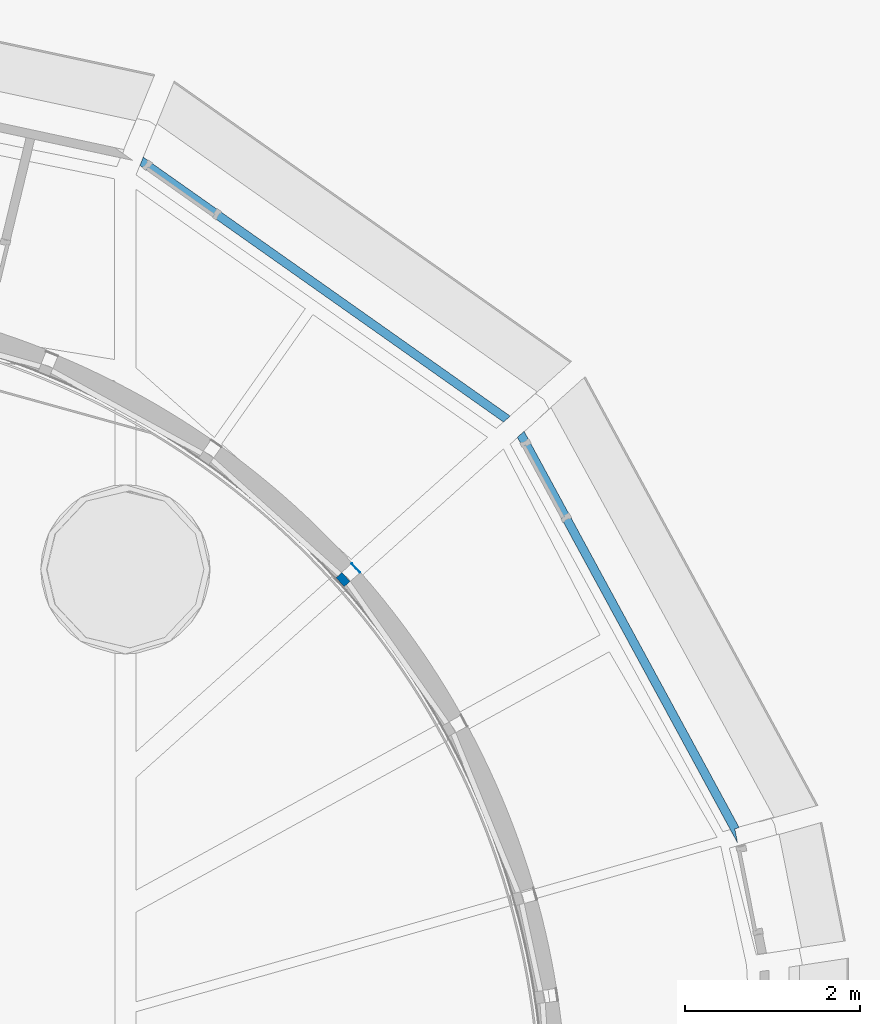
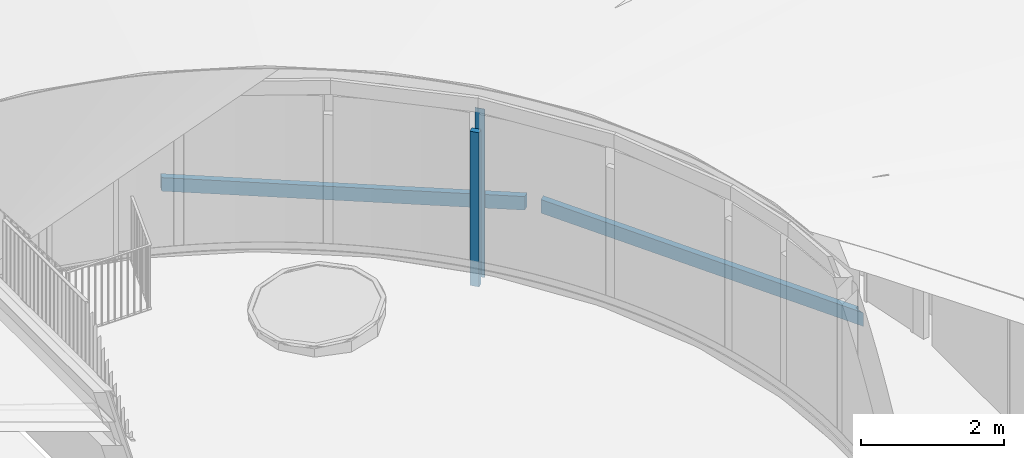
# One storey, part 35 of 66: 4 walls.
"""IFC2X3 building model written with IfcOpenShell, lengths in millimetres."""

from ifc_helpers import new_model, entity, si_unit, converted_unit, derived_unit, direction, frame, frame_2d, origin, place, context, subcontext, project, spatial, polyline, rectangle, outline, extrude, material, layer, layer_set, layer_usage, type_object, element, save


model = new_model("IFC2X3")

# Units and contexts
model_context = context("Model", 3, precision=0.01, world=origin(), true_north=direction((6.12303176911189e-17, 1.0)))
body_context = subcontext(model_context, "Body", "Model", "MODEL_VIEW")
ifc_project = project(units=[si_unit("LENGTHUNIT", "METRE", prefix="MILLI"), si_unit("AREAUNIT", "SQUARE_METRE"), si_unit("VOLUMEUNIT", "CUBIC_METRE"), converted_unit("PLANEANGLEUNIT", "DEGREE", entity("IfcRatioMeasure", 0.0174532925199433), si_unit("PLANEANGLEUNIT", "RADIAN"), dimensions=[0, 0, 0, 0, 0, 0, 0]), si_unit("MASSUNIT", "GRAM", prefix="KILO"), derived_unit("MASSDENSITYUNIT", [(si_unit("MASSUNIT", "GRAM", prefix="KILO"), 1), (si_unit("LENGTHUNIT", "METRE"), -3)]), derived_unit("MOMENTOFINERTIAUNIT", [(si_unit("LENGTHUNIT", "METRE"), 4)]), si_unit("TIMEUNIT", "SECOND"), si_unit("FREQUENCYUNIT", "HERTZ"), si_unit("THERMODYNAMICTEMPERATUREUNIT", "DEGREE_CELSIUS"), derived_unit("THERMALTRANSMITTANCEUNIT", [(si_unit("MASSUNIT", "GRAM", prefix="KILO"), 1), (si_unit("THERMODYNAMICTEMPERATUREUNIT", "KELVIN"), -1), (si_unit("TIMEUNIT", "SECOND"), -3)]), derived_unit("VOLUMETRICFLOWRATEUNIT", [(si_unit("LENGTHUNIT", "METRE"), 3), (si_unit("TIMEUNIT", "SECOND"), -1)]), si_unit("ELECTRICCURRENTUNIT", "AMPERE"), si_unit("ELECTRICVOLTAGEUNIT", "VOLT"), si_unit("POWERUNIT", "WATT"), si_unit("FORCEUNIT", "NEWTON", prefix="KILO"), si_unit("ILLUMINANCEUNIT", "LUX"), si_unit("LUMINOUSFLUXUNIT", "LUMEN"), si_unit("LUMINOUSINTENSITYUNIT", "CANDELA"), derived_unit("USERDEFINED", [(si_unit("MASSUNIT", "GRAM", prefix="KILO"), -1), (si_unit("LENGTHUNIT", "METRE"), -2), (si_unit("TIMEUNIT", "SECOND"), 3), (si_unit("LUMINOUSFLUXUNIT", "LUMEN"), 1)]), derived_unit("LINEARVELOCITYUNIT", [(si_unit("LENGTHUNIT", "METRE"), 1), (si_unit("TIMEUNIT", "SECOND"), -1)]), si_unit("PRESSUREUNIT", "PASCAL"), derived_unit("USERDEFINED", [(si_unit("LENGTHUNIT", "METRE"), -2), (si_unit("MASSUNIT", "GRAM", prefix="KILO"), 1), (si_unit("TIMEUNIT", "SECOND"), -2)]), derived_unit("LINEARFORCEUNIT", [(si_unit("MASSUNIT", "GRAM", prefix="KILO"), 1), (si_unit("LENGTHUNIT", "METRE"), 1), (si_unit("TIMEUNIT", "SECOND"), -2), (si_unit("LENGTHUNIT", "METRE"), -1)]), derived_unit("PLANARFORCEUNIT", [(si_unit("MASSUNIT", "GRAM", prefix="KILO"), 1), (si_unit("LENGTHUNIT", "METRE"), 1), (si_unit("TIMEUNIT", "SECOND"), -2), (si_unit("LENGTHUNIT", "METRE"), -2)])], contexts=[model_context])

# Site, building, storey
site_placement = place(None, origin())
site = spatial("IfcSite", under=ifc_project, at=site_placement, Name="Default", CompositionType="ELEMENT")
building_placement = place(site_placement, origin())
building = spatial("IfcBuilding", under=site, at=building_placement, Name="-", CompositionType="ELEMENT")
storey_placement = place(building_placement, frame((0.0, 0.0, 3070.0)))
storey = spatial("IfcBuildingStorey", under=building, at=storey_placement, Name="01 eerste verdieping", CompositionType="ELEMENT", Elevation=3070.00000000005)

# Walls
ifc_material_1 = material(Name="NLRS_f7_gipsplaat_gen")
ifc_layer_1 = layer(ifc_material_1, 12.5)
ifc_material_2 = material(Name="NLRS_m1_isolatie")
ifc_layer_2 = layer(ifc_material_2, 75.0)
ifc_layer_3 = layer(ifc_material_1, 12.5)
ifc_layer_set_1 = layer_set([ifc_layer_1, ifc_layer_2, ifc_layer_3], Name="Basic Wall:NLRS_21_WA_Metalstud 100mm")
ifc_layer_usage_1 = layer_usage(ifc_layer_set_1, "AXIS2", "NEGATIVE", 50.0)
wall_type_1 = type_object("IfcWallType", Name="Basic Wall:NLRS_21_WA_Metalstud 100mm", PredefinedType="STANDARD", material=ifc_layer_set_1)
wall_1_placement = place(storey_placement, frame((62098.1086853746, 22797.3850498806, -370.0), z_axis=(0.0, 0.0, 1.0), x_axis=(-0.477071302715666, 0.878864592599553, 0.0)))
element("IfcWallStandardCase", 1, at=wall_1_placement, inside=storey, type_object=wall_type_1, material=ifc_layer_usage_1, Name="Basic Wall:NLRS_21_WA_Metalstud 100mm", ObjectType="Basic Wall:NLRS_21_WA_Metalstud 100mm", context=body_context, shape_type="SweptSolid", body=[
    extrude(outline(polyline([(5300.1170399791, -50.0), (5276.44444404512, 50.0), (0.0, 50.0), (155.891530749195, 0.78353206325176), (144.463944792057, -50.0), (5300.1170399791, -50.0)])), origin(), (0.0, 0.0, 1.0), 231.000000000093),
])
ifc_layer_usage_2 = layer_usage(ifc_layer_set_1, "AXIS2", "NEGATIVE", 50.0)
wall_2_placement = place(storey_placement, frame((55230.0712141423, 30573.319409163, -370.0), z_axis=(0.0, 0.0, 1.0), x_axis=(0.817056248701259, -0.57655796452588, 0.0)))
element("IfcWallStandardCase", 2, at=wall_2_placement, inside=storey, type_object=wall_type_1, material=ifc_layer_usage_2, Name="Basic Wall:NLRS_21_WA_Metalstud 100mm", ObjectType="Basic Wall:NLRS_21_WA_Metalstud 100mm", context=body_context, shape_type="SweptSolid", body=[
    extrude(outline(polyline([(5112.85744896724, -50.0), (5135.90504335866, 50.0), (0.0, 50.0), (23.1260505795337, -50.0), (5112.85744896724, -50.0)])), origin(), (0.0, 0.0, 1.0), 231.000000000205),
])
ifc_material_3 = material(Name="NLRS_n7_isolatie PIR_gen")
ifc_layer_4 = layer(ifc_material_3, 90.0)
ifc_layer_set_2 = layer_set([ifc_layer_4], Name="Basic Wall:NLRS_22_WA_LB_isolatie PIR 90mm")
ifc_layer_usage_3 = layer_usage(ifc_layer_set_2, "AXIS2", "NEGATIVE", 45.0)
wall_type_2 = type_object("IfcWallType", Name="Basic Wall:NLRS_22_WA_LB_isolatie PIR 90mm", PredefinedType="STANDARD", material=ifc_layer_set_2)
wall_3_placement = place(storey_placement, frame((57589.32378013, 25732.744983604, 100.0), z_axis=(0.0, 0.0, 1.0), x_axis=(-0.666695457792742, 0.745330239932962, 0.0)))
element("IfcWallStandardCase", 3, at=wall_3_placement, inside=storey, type_object=wall_type_2, material=ifc_layer_usage_3, Name="Basic Wall:NLRS_22_WA_LB_isolatie PIR 90mm", ObjectType="Basic Wall:NLRS_22_WA_LB_isolatie PIR 90mm", context=body_context, shape_type="SweptSolid", body=[
    extrude(rectangle(XDim=137.287770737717, YDim=89.999999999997, at=frame_2d((68.6438853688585, -8.63309423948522e-13), x_axis=(-1.0, 0.0))), origin(), (0.0, 0.0, 1.0), 2625.73599912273),
])
ifc_material_4 = material(Name="NLRS_i4_hout_multiplex wit")
ifc_layer_5 = layer(ifc_material_4, 9.0)
ifc_layer_set_3 = layer_set([ifc_layer_5], Name="Basic Wall:NLRS_41_WA_plaatmateriaal 9mm_gen_aly")
ifc_layer_usage_4 = layer_usage(ifc_layer_set_3, "AXIS2", "NEGATIVE", 4.5)
wall_type_3 = type_object("IfcWallType", Name="Basic Wall:NLRS_41_WA_plaatmateriaal 9mm_gen_aly", PredefinedType="STANDARD", material=ifc_layer_set_3)
wall_4_placement = place(storey_placement, frame((57643.1966122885, 25969.5859365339, 100.0), z_axis=(0.0, 0.0, 1.0), x_axis=(0.666632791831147, -0.745386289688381, 0.0)))
element("IfcWallStandardCase", 4, at=wall_4_placement, inside=storey, type_object=wall_type_3, material=ifc_layer_usage_4, Name="Basic Wall:NLRS_41_WA_plaatmateriaal 9mm_gen_aly", ObjectType="Basic Wall:NLRS_41_WA_plaatmateriaal 9mm_gen_aly", context=body_context, shape_type="SweptSolid", body=[
    extrude(rectangle(XDim=143.291405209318, YDim=8.9999999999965, at=frame_2d((71.645702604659, 8.88178419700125e-16), x_axis=(-1.0, 0.0))), origin(), (0.0, 0.0, 1.0), 2870.0),
])

save(model, "model.ifc")
